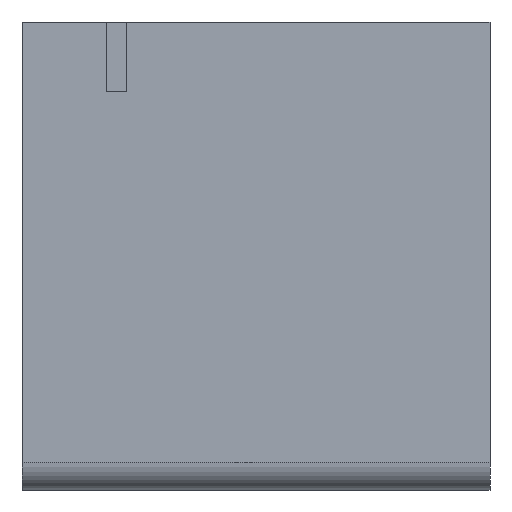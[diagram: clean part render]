
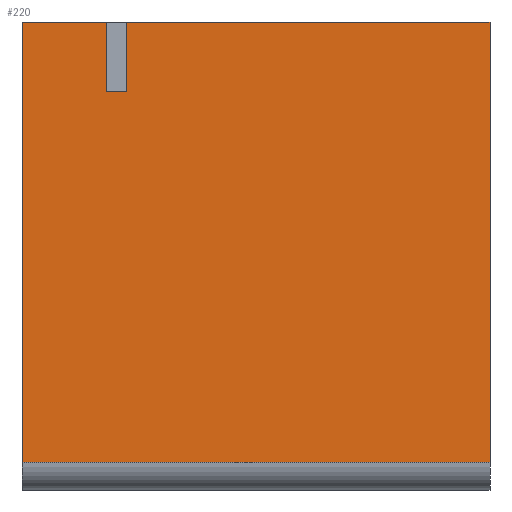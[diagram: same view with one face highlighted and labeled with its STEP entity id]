
A CAD part, front view. The second image highlights one B-rep face of the part: STEP entity #220.
In plain terms, the highlighted planar face has unit normal (0, -1, 0).
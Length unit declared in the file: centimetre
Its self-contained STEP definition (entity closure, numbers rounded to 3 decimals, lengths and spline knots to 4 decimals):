
#4 = CARTESIAN_POINT ( 'NONE',  ( 224.0772, 0., 851.4495 ) ) ;
#31 = EDGE_CURVE ( 'NONE', #847, #112, #244, .T. ) ;
#48 = ORIENTED_EDGE ( 'NONE', *, *, #373, .T. ) ;
#56 = CARTESIAN_POINT ( 'NONE',  ( 1000., 0., 1000. ) ) ;
#108 = EDGE_CURVE ( 'NONE', #141, #166, #255, .T. ) ;
#112 = VERTEX_POINT ( 'NONE', #504 ) ;
#124 = VERTEX_POINT ( 'NONE', #924 ) ;
#131 = DIRECTION ( 'NONE',  ( 0., 0., -1. ) ) ;
#138 = CARTESIAN_POINT ( 'NONE',  ( 0., 0., 1000. ) ) ;
#141 = VERTEX_POINT ( 'NONE', #910 ) ;
#146 = DIRECTION ( 'NONE',  ( 0., 0., -1. ) ) ;
#165 = DIRECTION ( 'NONE',  ( 0., 0., 1. ) ) ;
#166 = VERTEX_POINT ( 'NONE', #248 ) ;
#167 = DIRECTION ( 'NONE',  ( 1., 0., 0. ) ) ;
#171 = CARTESIAN_POINT ( 'NONE',  ( 0., 0., 1000. ) ) ;
#191 = DIRECTION ( 'NONE',  ( 0., 1., 0. ) ) ;
#198 = EDGE_CURVE ( 'NONE', #986, #847, #914, .T. ) ;
#199 = DIRECTION ( 'NONE',  ( 1., 0., 0. ) ) ;
#220 = ADVANCED_FACE ( 'NONE', ( #282 ), #596, .F. ) ;
#244 = LINE ( 'NONE', #500, #411 ) ;
#248 = CARTESIAN_POINT ( 'NONE',  ( 224.0772, 0., 1000. ) ) ;
#250 = EDGE_LOOP ( 'NONE', ( #949, #1036, #531, #48, #308, #920, #893, #434 ) ) ;
#255 = LINE ( 'NONE', #4, #443 ) ;
#282 = FACE_OUTER_BOUND ( 'NONE', #250, .T. ) ;
#293 = VERTEX_POINT ( 'NONE', #529 ) ;
#298 = VERTEX_POINT ( 'NONE', #363 ) ;
#308 = ORIENTED_EDGE ( 'NONE', *, *, #618, .T. ) ;
#315 = LINE ( 'NONE', #56, #546 ) ;
#323 = VECTOR ( 'NONE', #199, 100. ) ;
#363 = CARTESIAN_POINT ( 'NONE',  ( 1000., 0., 1000. ) ) ;
#373 = EDGE_CURVE ( 'NONE', #986, #124, #1046, .T. ) ;
#379 = DIRECTION ( 'NONE',  ( 1., 0., 0. ) ) ;
#411 = VECTOR ( 'NONE', #830, 100. ) ;
#434 = ORIENTED_EDGE ( 'NONE', *, *, #108, .F. ) ;
#443 = VECTOR ( 'NONE', #165, 100. ) ;
#500 = CARTESIAN_POINT ( 'NONE',  ( 180.2221, 0., 851.4495 ) ) ;
#503 = EDGE_CURVE ( 'NONE', #298, #293, #315, .T. ) ;
#504 = CARTESIAN_POINT ( 'NONE',  ( 180.2221, 0., 851.4495 ) ) ;
#516 = AXIS2_PLACEMENT_3D ( 'NONE', #524, #191, #935 ) ;
#524 = CARTESIAN_POINT ( 'NONE',  ( 0., 0., 1000. ) ) ;
#529 = CARTESIAN_POINT ( 'NONE',  ( 1000., 0., 59.6524 ) ) ;
#531 = ORIENTED_EDGE ( 'NONE', *, *, #198, .F. ) ;
#546 = VECTOR ( 'NONE', #131, 100. ) ;
#551 = CARTESIAN_POINT ( 'NONE',  ( 0., 0., 1000. ) ) ;
#552 = EDGE_CURVE ( 'NONE', #112, #141, #792, .T. ) ;
#596 = PLANE ( 'NONE',  #516 ) ;
#618 = EDGE_CURVE ( 'NONE', #124, #293, #817, .T. ) ;
#708 = CARTESIAN_POINT ( 'NONE',  ( 180.2221, 0., 1000. ) ) ;
#738 = DIRECTION ( 'NONE',  ( 1., 0., 0. ) ) ;
#745 = EDGE_CURVE ( 'NONE', #166, #298, #1068, .T. ) ;
#792 = LINE ( 'NONE', #1032, #1028 ) ;
#817 = LINE ( 'NONE', #981, #867 ) ;
#830 = DIRECTION ( 'NONE',  ( 0., 0., -1. ) ) ;
#847 = VERTEX_POINT ( 'NONE', #708 ) ;
#867 = VECTOR ( 'NONE', #738, 100. ) ;
#893 = ORIENTED_EDGE ( 'NONE', *, *, #745, .F. ) ;
#910 = CARTESIAN_POINT ( 'NONE',  ( 224.0772, 0., 851.4495 ) ) ;
#914 = LINE ( 'NONE', #171, #323 ) ;
#920 = ORIENTED_EDGE ( 'NONE', *, *, #503, .F. ) ;
#924 = CARTESIAN_POINT ( 'NONE',  ( 0., 0., 59.6524 ) ) ;
#935 = DIRECTION ( 'NONE',  ( 0., 0., 1. ) ) ;
#949 = ORIENTED_EDGE ( 'NONE', *, *, #552, .F. ) ;
#981 = CARTESIAN_POINT ( 'NONE',  ( 0., 0., 59.6524 ) ) ;
#986 = VERTEX_POINT ( 'NONE', #551 ) ;
#992 = CARTESIAN_POINT ( 'NONE',  ( 0., 0., 1000. ) ) ;
#1028 = VECTOR ( 'NONE', #379, 100. ) ;
#1032 = CARTESIAN_POINT ( 'NONE',  ( 180.2221, 0., 851.4495 ) ) ;
#1036 = ORIENTED_EDGE ( 'NONE', *, *, #31, .F. ) ;
#1037 = VECTOR ( 'NONE', #167, 100. ) ;
#1045 = VECTOR ( 'NONE', #146, 100. ) ;
#1046 = LINE ( 'NONE', #138, #1045 ) ;
#1068 = LINE ( 'NONE', #992, #1037 ) ;
